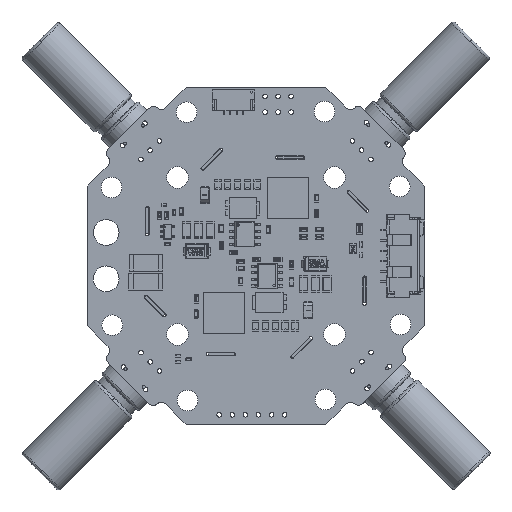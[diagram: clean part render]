
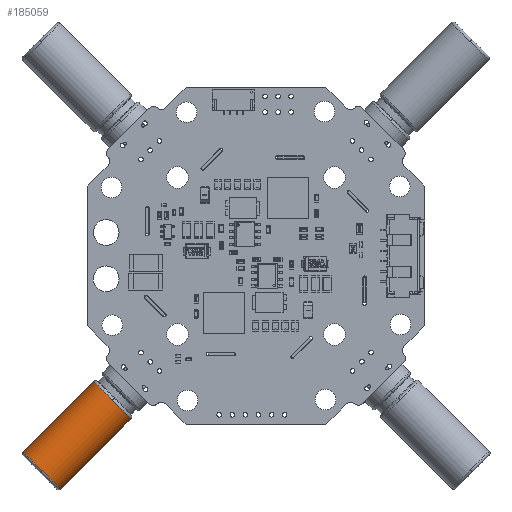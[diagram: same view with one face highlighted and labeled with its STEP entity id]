
A CAD part, top view. The second image highlights one B-rep face of the part: STEP entity #185059.
In plain terms, the highlighted cylindrical face has radius 5.13 mm (diameter 10.26 mm), a partial arc.
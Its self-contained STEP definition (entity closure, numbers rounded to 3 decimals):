
#7931 = DIRECTION ( 'NONE',  ( -0.707, 0.707, 0. ) ) ;
#21155 = DIRECTION ( 'NONE',  ( 0.707, 0.707, 0. ) ) ;
#22618 = CARTESIAN_POINT ( 'NONE',  ( -41.569, -41.696, -7.287 ) ) ;
#27992 = EDGE_LOOP ( 'NONE', ( #94373, #37165, #261346, #113106, #179257, #190500 ) ) ;
#37165 = ORIENTED_EDGE ( 'NONE', *, *, #289251, .T. ) ;
#40758 = EDGE_CURVE ( 'NONE', #162666, #83469, #146583, .T. ) ;
#47452 = DIRECTION ( 'NONE',  ( -0.707, -0.707, 0. ) ) ;
#53074 = AXIS2_PLACEMENT_3D ( 'NONE', #248314, #47452, #226201 ) ;
#60675 = CIRCLE ( 'NONE', #173002, 5.13 ) ;
#63442 = VECTOR ( 'NONE', #105465, 1000. ) ;
#68509 = LINE ( 'NONE', #160856, #238554 ) ;
#71518 = VERTEX_POINT ( 'NONE', #280228 ) ;
#78112 = EDGE_CURVE ( 'NONE', #162666, #236530, #289986, .T. ) ;
#81272 = EDGE_CURVE ( 'NONE', #71518, #123322, #174803, .T. ) ;
#83469 = VERTEX_POINT ( 'NONE', #284548 ) ;
#84429 = CARTESIAN_POINT ( 'NONE',  ( -41.569, -41.696, -7.287 ) ) ;
#94373 = ORIENTED_EDGE ( 'NONE', *, *, #78112, .T. ) ;
#95813 = DIRECTION ( 'NONE',  ( 0.707, 0.707, 0. ) ) ;
#96183 = VERTEX_POINT ( 'NONE', #135867 ) ;
#105465 = DIRECTION ( 'NONE',  ( 0.707, 0.707, 0. ) ) ;
#110494 = DIRECTION ( 'NONE',  ( 0., 0., 1. ) ) ;
#113106 = ORIENTED_EDGE ( 'NONE', *, *, #81272, .T. ) ;
#119939 = AXIS2_PLACEMENT_3D ( 'NONE', #254212, #95813, #7931 ) ;
#123322 = VERTEX_POINT ( 'NONE', #174423 ) ;
#125962 = CARTESIAN_POINT ( 'NONE',  ( -27.872, -20.744, -7.287 ) ) ;
#128439 = DIRECTION ( 'NONE',  ( 0.707, 0.707, 0. ) ) ;
#129656 = DIRECTION ( 'NONE',  ( 0., 0., -1. ) ) ;
#135867 = CARTESIAN_POINT ( 'NONE',  ( -37.941, -45.323, -7.287 ) ) ;
#144960 = AXIS2_PLACEMENT_3D ( 'NONE', #84429, #128439, #263422 ) ;
#146583 = LINE ( 'NONE', #125962, #63442 ) ;
#148085 = AXIS2_PLACEMENT_3D ( 'NONE', #22618, #21155, #110494 ) ;
#160856 = CARTESIAN_POINT ( 'NONE',  ( -20.617, -27.999, -7.287 ) ) ;
#162666 = VERTEX_POINT ( 'NONE', #227298 ) ;
#173002 = AXIS2_PLACEMENT_3D ( 'NONE', #260304, #241079, #129656 ) ;
#174423 = CARTESIAN_POINT ( 'NONE',  ( -27.913, -28.04, -2.157 ) ) ;
#174803 = CIRCLE ( 'NONE', #53074, 5.13 ) ;
#179257 = ORIENTED_EDGE ( 'NONE', *, *, #271258, .T. ) ;
#185059 = ADVANCED_FACE ( 'NONE', ( #186659 ), #230716, .T. ) ;
#186659 = FACE_OUTER_BOUND ( 'NONE', #27992, .T. ) ;
#190500 = ORIENTED_EDGE ( 'NONE', *, *, #40758, .F. ) ;
#224892 = CARTESIAN_POINT ( 'NONE',  ( -41.569, -41.696, -2.157 ) ) ;
#225361 = DIRECTION ( 'NONE',  ( 0.707, 0.707, 0. ) ) ;
#226201 = DIRECTION ( 'NONE',  ( 0., 0., -1. ) ) ;
#227298 = CARTESIAN_POINT ( 'NONE',  ( -45.196, -38.068, -7.287 ) ) ;
#230716 = CYLINDRICAL_SURFACE ( 'NONE', #119939, 5.13 ) ;
#236530 = VERTEX_POINT ( 'NONE', #224892 ) ;
#238554 = VECTOR ( 'NONE', #225361, 1000. ) ;
#241079 = DIRECTION ( 'NONE',  ( -0.707, -0.707, 0. ) ) ;
#248314 = CARTESIAN_POINT ( 'NONE',  ( -27.913, -28.04, -7.287 ) ) ;
#254212 = CARTESIAN_POINT ( 'NONE',  ( -24.245, -24.372, -7.287 ) ) ;
#260304 = CARTESIAN_POINT ( 'NONE',  ( -27.913, -28.04, -7.287 ) ) ;
#261346 = ORIENTED_EDGE ( 'NONE', *, *, #270506, .T. ) ;
#263422 = DIRECTION ( 'NONE',  ( 0., 0., 1. ) ) ;
#270506 = EDGE_CURVE ( 'NONE', #96183, #71518, #68509, .T. ) ;
#271258 = EDGE_CURVE ( 'NONE', #123322, #83469, #60675, .T. ) ;
#274622 = CIRCLE ( 'NONE', #148085, 5.13 ) ;
#280228 = CARTESIAN_POINT ( 'NONE',  ( -24.285, -31.667, -7.287 ) ) ;
#284548 = CARTESIAN_POINT ( 'NONE',  ( -31.54, -24.412, -7.287 ) ) ;
#289251 = EDGE_CURVE ( 'NONE', #236530, #96183, #274622, .T. ) ;
#289986 = CIRCLE ( 'NONE', #144960, 5.13 ) ;
